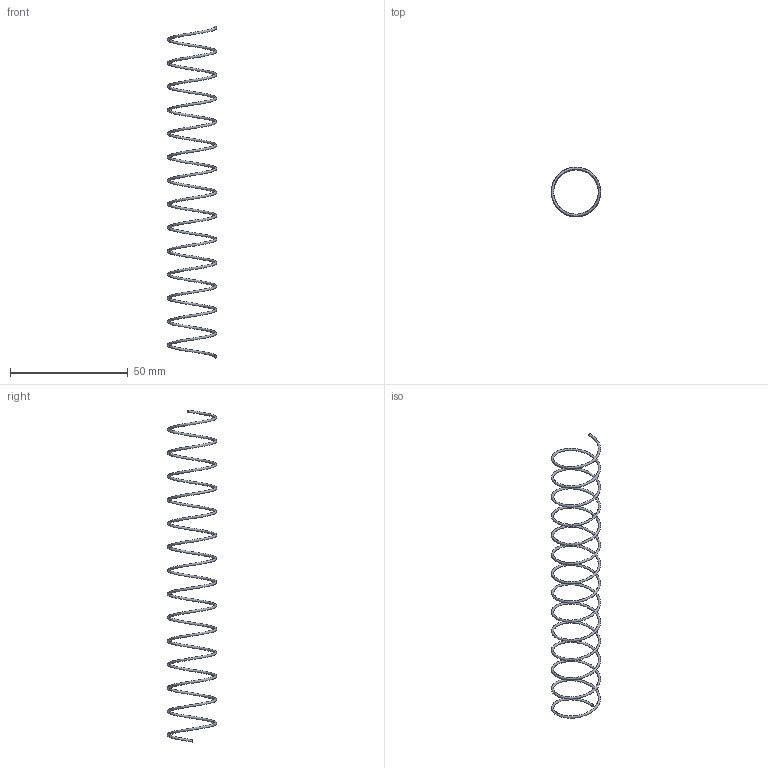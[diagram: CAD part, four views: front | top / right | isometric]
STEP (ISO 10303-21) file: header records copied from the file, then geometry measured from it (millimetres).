
FILE_DESCRIPTION( ( 'STEP AP203' ), '1' );
FILE_NAME( 'D:/Cuma/25 06 2009/D60.01/D60.01_20/D60.01_20140.step', '2003-02-03T13:36:07', ( ' ' ), ( ' ' ), 'XStep 1.0', ' ', ' ' );
FILE_SCHEMA( ( 'CONFIG_CONTROL_DESIGN' ) );
Length unit declared in the file: metre
Products named in the file (1): 1
Bounding box: 21 x 21 x 141.27 mm (x, y, z)
Volume: 685.4 mm3; surface area: 2774.4 mm2
Topology: 1 solids, 1 shells, 3 faces, 3 edges, 2 vertices
Faces by surface type: plane 2, bspline 1
Entity records: 2135 total; most frequent: CARTESIAN_POINT 2053, DIRECTION 6, CC_DESIGN_PERSON_AND_ORGANIZATION_ASSIGNMENT 5, PERSON_AND_ORGANIZATION_ROLE 4, FACE_OUTER_BOUND 4, EDGE_LOOP 4, ORIENTED_EDGE 4, AXIS2_PLACEMENT_3D 3
